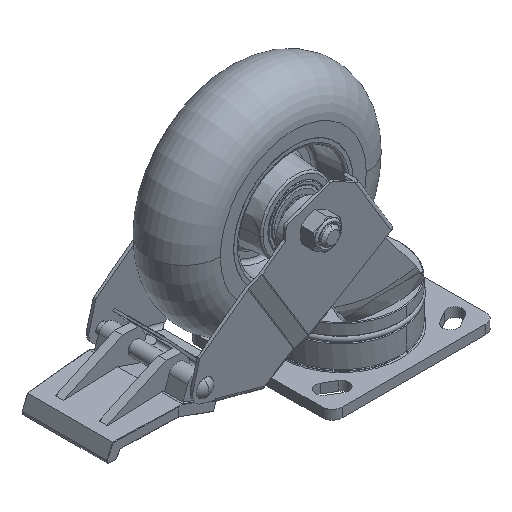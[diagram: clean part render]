
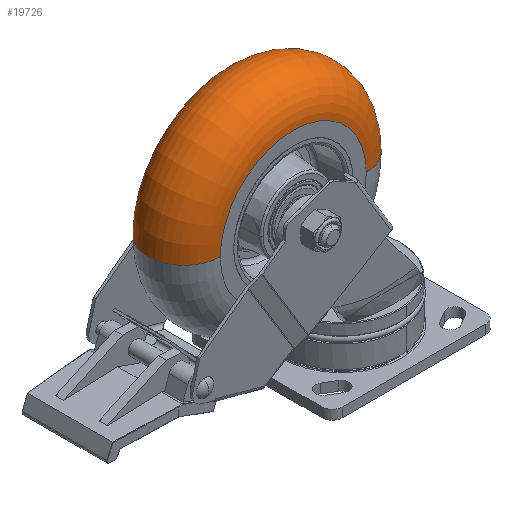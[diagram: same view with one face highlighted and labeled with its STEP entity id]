
A CAD part, isometric view. The second image highlights one B-rep face of the part: STEP entity #19726.
In plain terms, the highlighted toroidal (fillet/blend) face has major radius 50.927 mm and minor radius 25.273 mm.
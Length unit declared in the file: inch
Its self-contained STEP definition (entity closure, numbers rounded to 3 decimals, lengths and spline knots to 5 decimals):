
#18855=CARTESIAN_POINT('',(0.,0.,0.995));
#18856=DIRECTION('',(0.,0.,1.));
#18857=DIRECTION('',(1.,0.,0.));
#18858=AXIS2_PLACEMENT_3D('',#18855,#18856,#18857);
#18863=CARTESIAN_POINT('',(2.005,0.,0.));
#18864=DIRECTION('',(0.,1.,0.));
#18865=DIRECTION('',(0.,0.,1.));
#18866=AXIS2_PLACEMENT_3D('',#18863,#18864,#18865);
#18871=CARTESIAN_POINT('',(-2.005,0.,0.));
#18872=DIRECTION('',(0.,-1.,0.));
#18873=DIRECTION('',(0.,0.,1.));
#18874=AXIS2_PLACEMENT_3D('',#18871,#18872,#18873);
#18895=CARTESIAN_POINT('',(0.,0.,-0.995));
#18896=DIRECTION('',(0.,0.,1.));
#18897=DIRECTION('',(1.,0.,0.));
#18898=AXIS2_PLACEMENT_3D('',#18895,#18896,#18897);
#19427=CARTESIAN_POINT('',(2.005,0.,0.995));
#19428=CARTESIAN_POINT('',(2.005,0.,-0.995));
#19429=VERTEX_POINT('',#19427);
#19430=VERTEX_POINT('',#19428);
#19431=CARTESIAN_POINT('',(-2.005,0.,0.995));
#19432=CARTESIAN_POINT('',(-2.005,0.,-0.995));
#19433=VERTEX_POINT('',#19431);
#19434=VERTEX_POINT('',#19432);
#19712=CARTESIAN_POINT('',(0.,0.,0.));
#19713=DIRECTION('',(0.,0.,1.));
#19714=DIRECTION('',(-1.,0.,0.));
#19715=AXIS2_PLACEMENT_3D('',#19712,#19713,#19714);
#19716=TOROIDAL_SURFACE('',#19715,2.005,0.995);
#19718=ORIENTED_EDGE('',*,*,#19717,.F.);
#19719=ORIENTED_EDGE('',*,*,#19689,.T.);
#19721=ORIENTED_EDGE('',*,*,#19720,.T.);
#19723=ORIENTED_EDGE('',*,*,#19722,.F.);
#19724=EDGE_LOOP('',(#19718,#19719,#19721,#19723));
#19725=FACE_OUTER_BOUND('',#19724,.F.);
#18859=CIRCLE('',#18858,2.005);
#18867=CIRCLE('',#18866,0.995);
#18875=CIRCLE('',#18874,0.995);
#18899=CIRCLE('',#18898,2.005);
#19689=EDGE_CURVE('',#19429,#19433,#18859,.T.);
#19717=EDGE_CURVE('',#19429,#19430,#18867,.T.);
#19720=EDGE_CURVE('',#19433,#19434,#18875,.T.);
#19722=EDGE_CURVE('',#19430,#19434,#18899,.T.);
#19726=ADVANCED_FACE('',(#19725),#19716,.T.);
